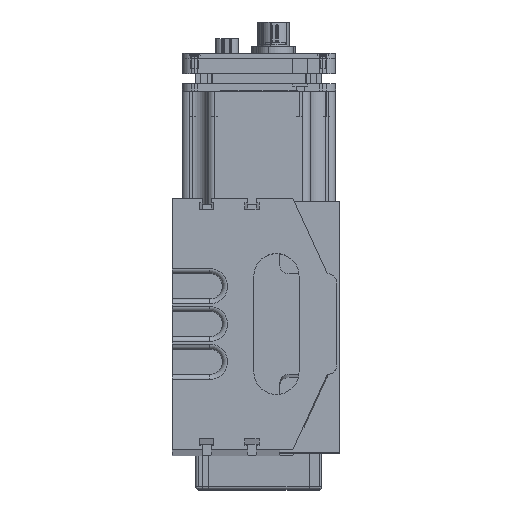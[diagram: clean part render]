
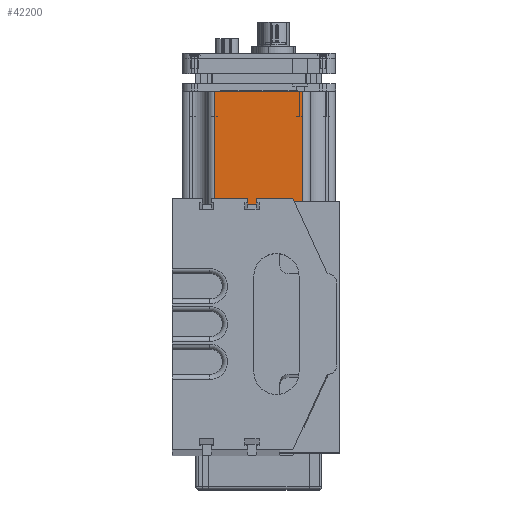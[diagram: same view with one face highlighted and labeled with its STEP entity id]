
A CAD part, top view. The second image highlights one B-rep face of the part: STEP entity #42200.
In plain terms, the highlighted planar face has unit normal (0, 0, 1).
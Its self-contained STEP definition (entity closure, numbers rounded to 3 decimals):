
#11574 = DIRECTION ( 'NONE',  ( 1., 0., 0. ) ) ;
#11575 = VECTOR ( 'NONE', #11574, 1000. ) ;
#11576 = CARTESIAN_POINT ( 'NONE',  ( -24.5, 0., 30.5 ) ) ;
#11577 = LINE ( 'NONE', #11576, #11575 ) ;
#11734 = LINE ( 'NONE', #11768, #11767 ) ;
#11735 = CARTESIAN_POINT ( 'NONE',  ( -17.5, 94., 30.5 ) ) ;
#11766 = DIRECTION ( 'NONE',  ( 0., 1., 0. ) ) ;
#11767 = VECTOR ( 'NONE', #11766, 1000. ) ;
#11768 = CARTESIAN_POINT ( 'NONE',  ( -17.5, 7., 30.5 ) ) ;
#11784 = FACE_OUTER_BOUND ( 'NONE', #42150, .T. ) ;
#11798 = PLANE ( 'NONE',  #11862 ) ;
#11803 = CARTESIAN_POINT ( 'NONE',  ( 17.5, 94., 30.5 ) ) ;
#11805 = CARTESIAN_POINT ( 'NONE',  ( -24.5, 7., 30.5 ) ) ;
#11853 = DIRECTION ( 'NONE',  ( -1., 0., 0. ) ) ;
#11860 = DIRECTION ( 'NONE',  ( 0., 0., -1. ) ) ;
#11862 = AXIS2_PLACEMENT_3D ( 'NONE', #11805, #11860, #11853 ) ;
#11894 = LINE ( 'NONE', #11947, #11946 ) ;
#11915 = DIRECTION ( 'NONE',  ( 1., 0., 0. ) ) ;
#11916 = VECTOR ( 'NONE', #11915, 1000. ) ;
#11917 = CARTESIAN_POINT ( 'NONE',  ( -24.5, 7., 30.5 ) ) ;
#11922 = LINE ( 'NONE', #11917, #11916 ) ;
#11935 = DIRECTION ( 'NONE',  ( 1., 0., 0. ) ) ;
#11936 = VECTOR ( 'NONE', #11935, 1000. ) ;
#11937 = CARTESIAN_POINT ( 'NONE',  ( 26.5, 94., 30.5 ) ) ;
#11938 = LINE ( 'NONE', #11937, #11936 ) ;
#11940 = CARTESIAN_POINT ( 'NONE',  ( 24.5, 7., 30.5 ) ) ;
#11945 = DIRECTION ( 'NONE',  ( 0., -1., 0. ) ) ;
#11946 = VECTOR ( 'NONE', #11945, 1000. ) ;
#11947 = CARTESIAN_POINT ( 'NONE',  ( 17.5, 95.35, 30.5 ) ) ;
#11961 = DIRECTION ( 'NONE',  ( 0., -1., 0. ) ) ;
#11962 = VECTOR ( 'NONE', #11961, 1000. ) ;
#11978 = LINE ( 'NONE', #11940, #11962 ) ;
#12014 = CARTESIAN_POINT ( 'NONE',  ( 17.5, 7., 30.5 ) ) ;
#12021 = CARTESIAN_POINT ( 'NONE',  ( 24.5, 7., 30.5 ) ) ;
#12036 = CARTESIAN_POINT ( 'NONE',  ( 24.5, 0., 30.5 ) ) ;
#12695 = EDGE_CURVE ( 'NONE', #14002, #13924, #31946, .T. ) ;
#13924 = VERTEX_POINT ( 'NONE', #32343 ) ;
#14002 = VERTEX_POINT ( 'NONE', #32389 ) ;
#23863 = EDGE_CURVE ( 'NONE', #23916, #14002, #41163, .T. ) ;
#23916 = VERTEX_POINT ( 'NONE', #41202 ) ;
#31946 = LINE ( 'NONE', #31992, #31991 ) ;
#31990 = DIRECTION ( 'NONE',  ( 1., 0., 0. ) ) ;
#31991 = VECTOR ( 'NONE', #31990, 1000. ) ;
#31992 = CARTESIAN_POINT ( 'NONE',  ( -24.5, 7., 30.5 ) ) ;
#32343 = CARTESIAN_POINT ( 'NONE',  ( -17.5, 7., 30.5 ) ) ;
#32389 = CARTESIAN_POINT ( 'NONE',  ( -24.5, 7., 30.5 ) ) ;
#41162 = CARTESIAN_POINT ( 'NONE',  ( -24.5, 7., 30.5 ) ) ;
#41163 = LINE ( 'NONE', #41162, #41221 ) ;
#41202 = CARTESIAN_POINT ( 'NONE',  ( -24.5, 0., 30.5 ) ) ;
#41220 = DIRECTION ( 'NONE',  ( 0., 1., 0. ) ) ;
#41221 = VECTOR ( 'NONE', #41220, 1000. ) ;
#42075 = EDGE_CURVE ( 'NONE', #23916, #42329, #11577, .T. ) ;
#42130 = ORIENTED_EDGE ( 'NONE', *, *, #42262, .F. ) ;
#42150 = EDGE_LOOP ( 'NONE', ( #42238, #42237, #42349, #42181, #42221, #42260, #42130, #42406 ) ) ;
#42156 = VERTEX_POINT ( 'NONE', #11735 ) ;
#42170 = EDGE_CURVE ( 'NONE', #13924, #42156, #11734, .T. ) ;
#42181 = ORIENTED_EDGE ( 'NONE', *, *, #42075, .T. ) ;
#42197 = VERTEX_POINT ( 'NONE', #11803 ) ;
#42200 = ADVANCED_FACE ( 'NONE', ( #11784 ), #11798, .F. ) ;
#42221 = ORIENTED_EDGE ( 'NONE', *, *, #42288, .F. ) ;
#42237 = ORIENTED_EDGE ( 'NONE', *, *, #12695, .F. ) ;
#42238 = ORIENTED_EDGE ( 'NONE', *, *, #42170, .F. ) ;
#42245 = EDGE_CURVE ( 'NONE', #42297, #42296, #11922, .T. ) ;
#42260 = ORIENTED_EDGE ( 'NONE', *, *, #42245, .F. ) ;
#42262 = EDGE_CURVE ( 'NONE', #42197, #42297, #11894, .T. ) ;
#42264 = EDGE_CURVE ( 'NONE', #42156, #42197, #11938, .T. ) ;
#42288 = EDGE_CURVE ( 'NONE', #42296, #42329, #11978, .T. ) ;
#42296 = VERTEX_POINT ( 'NONE', #12021 ) ;
#42297 = VERTEX_POINT ( 'NONE', #12014 ) ;
#42329 = VERTEX_POINT ( 'NONE', #12036 ) ;
#42349 = ORIENTED_EDGE ( 'NONE', *, *, #23863, .F. ) ;
#42406 = ORIENTED_EDGE ( 'NONE', *, *, #42264, .F. ) ;
